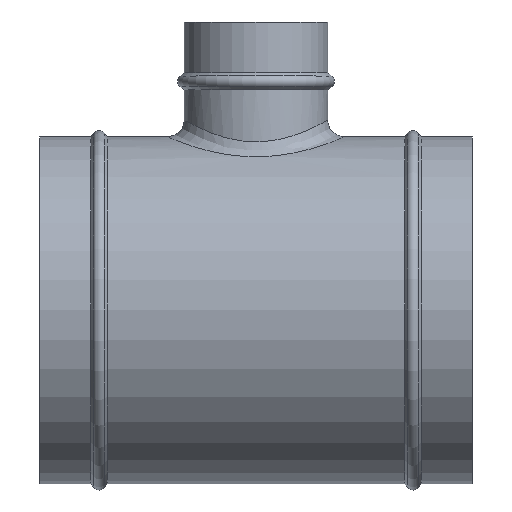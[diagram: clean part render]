
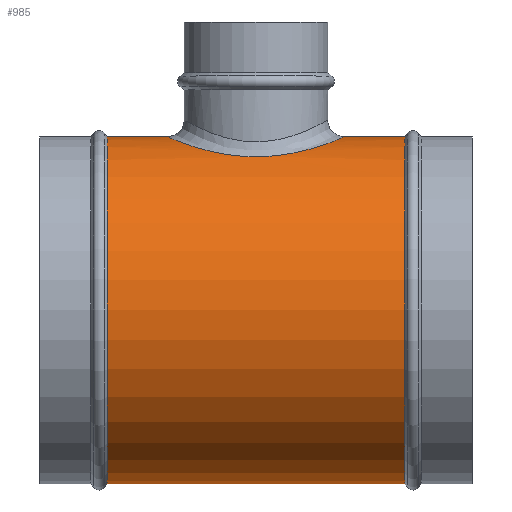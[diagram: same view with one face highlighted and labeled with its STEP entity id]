
A CAD part, top view. The second image highlights one B-rep face of the part: STEP entity #985.
In plain terms, the highlighted cylindrical face has radius 102.25 mm (diameter 204.5 mm), a partial arc.
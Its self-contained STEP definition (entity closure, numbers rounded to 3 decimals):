
#183=CARTESIAN_POINT('',(-52.25,102.25,0.));
#184=CARTESIAN_POINT('',(-52.25,102.25,1.335));
#185=CARTESIAN_POINT('',(-52.128,102.198,4.043));
#186=CARTESIAN_POINT('',(-51.533,101.947,8.24));
#187=CARTESIAN_POINT('',(-50.497,101.515,12.485));
#188=CARTESIAN_POINT('',(-49.004,100.904,16.716));
#189=CARTESIAN_POINT('',(-47.05,100.128,20.865));
#190=CARTESIAN_POINT('',(-44.629,99.2,24.9));
#191=CARTESIAN_POINT('',(-41.76,98.157,28.714));
#192=CARTESIAN_POINT('',(-38.927,97.185,31.834));
#193=CARTESIAN_POINT('',(-35.621,96.122,34.919));
#194=CARTESIAN_POINT('',(-31.575,94.932,38.036));
#195=CARTESIAN_POINT('',(-26.654,93.658,41.069));
#196=CARTESIAN_POINT('',(-20.708,92.38,43.861));
#197=CARTESIAN_POINT('',(-13.375,91.219,46.213));
#198=CARTESIAN_POINT('',(-4.993,90.498,47.595));
#199=CARTESIAN_POINT('',(3.671,90.444,47.696));
#200=CARTESIAN_POINT('',(12.15,91.072,46.5));
#201=CARTESIAN_POINT('',(19.745,92.2,44.238));
#202=CARTESIAN_POINT('',(25.896,93.479,41.475));
#203=CARTESIAN_POINT('',(30.987,94.769,38.44));
#204=CARTESIAN_POINT('',(35.166,95.981,35.305));
#205=CARTESIAN_POINT('',(38.598,97.076,32.167));
#206=CARTESIAN_POINT('',(41.425,98.04,29.11));
#207=CARTESIAN_POINT('',(44.305,99.08,25.374));
#208=CARTESIAN_POINT('',(46.779,100.022,21.365));
#209=CARTESIAN_POINT('',(48.785,100.816,17.24));
#210=CARTESIAN_POINT('',(50.357,101.457,12.959));
#211=CARTESIAN_POINT('',(51.471,101.921,8.585));
#212=CARTESIAN_POINT('',(52.117,102.194,4.212));
#213=CARTESIAN_POINT('',(52.25,102.25,1.392));
#214=CARTESIAN_POINT('',(52.25,102.25,0.));
#219=CARTESIAN_POINT('',(87.65,0.,0.));
#220=DIRECTION('',(1.,0.,0.));
#221=DIRECTION('',(0.,1.,0.));
#222=AXIS2_PLACEMENT_3D('',#219,#220,#221);
#227=CARTESIAN_POINT('',(-87.65,0.,0.));
#228=DIRECTION('',(1.,0.,0.));
#229=DIRECTION('',(0.,1.,0.));
#230=AXIS2_PLACEMENT_3D('',#227,#228,#229);
#301=CARTESIAN_POINT('',(52.25,102.25,0.));
#332=CARTESIAN_POINT('',(-52.25,102.25,0.));
#337=DIRECTION('',(-1.,0.,0.));
#338=VECTOR('',#337,35.4);
#339=CARTESIAN_POINT('',(-52.25,102.25,0.));
#340=LINE('',#339,#338);
#352=DIRECTION('',(-1.,0.,0.));
#353=VECTOR('',#352,175.3);
#354=CARTESIAN_POINT('',(87.65,-102.25,0.));
#355=LINE('',#354,#353);
#367=DIRECTION('',(-1.,0.,0.));
#368=VECTOR('',#367,35.4);
#369=CARTESIAN_POINT('',(87.65,102.25,0.));
#370=LINE('',#369,#368);
#818=CARTESIAN_POINT('',(87.65,102.25,0.));
#819=CARTESIAN_POINT('',(87.65,-102.25,0.));
#820=VERTEX_POINT('',#818);
#821=VERTEX_POINT('',#819);
#822=CARTESIAN_POINT('',(-87.65,102.25,0.));
#823=CARTESIAN_POINT('',(-87.65,-102.25,0.));
#824=VERTEX_POINT('',#822);
#825=VERTEX_POINT('',#823);
#858=VERTEX_POINT('',#301);
#859=VERTEX_POINT('',#332);
#966=CARTESIAN_POINT('',(-140.25,0.,0.));
#967=DIRECTION('',(1.,0.,0.));
#968=DIRECTION('',(0.,-1.,0.));
#969=AXIS2_PLACEMENT_3D('',#966,#967,#968);
#970=CYLINDRICAL_SURFACE('',#969,102.25);
#972=ORIENTED_EDGE('',*,*,#971,.T.);
#974=ORIENTED_EDGE('',*,*,#973,.F.);
#976=ORIENTED_EDGE('',*,*,#975,.T.);
#978=ORIENTED_EDGE('',*,*,#977,.T.);
#980=ORIENTED_EDGE('',*,*,#979,.F.);
#982=ORIENTED_EDGE('',*,*,#981,.F.);
#983=EDGE_LOOP('',(#972,#974,#976,#978,#980,#982));
#984=FACE_OUTER_BOUND('',#983,.F.);
#215=B_SPLINE_CURVE_WITH_KNOTS('',3,(#183,#184,#185,#186,#187,#188,#189,#190,
#191,#192,#193,#194,#195,#196,#197,#198,#199,#200,#201,#202,#203,#204,#205,#206,
#207,#208,#209,#210,#211,#212,#213,#214),.UNSPECIFIED.,.F.,.F.,(4,1,1,1,1,1,1,1,
1,1,1,1,1,1,1,1,1,1,1,1,1,1,1,1,1,1,1,1,1,4),(0.,0.034,
0.069,0.103,0.138,0.172,
0.207,0.241,0.276,0.31,
0.345,0.379,0.414,0.448,
0.483,0.517,0.552,0.586,
0.621,0.655,0.69,0.724,
0.759,0.793,0.828,0.862,
0.897,0.931,0.966,1.),.UNSPECIFIED.);
#223=CIRCLE('',#222,102.25);
#231=CIRCLE('',#230,102.25);
#971=EDGE_CURVE('',#859,#858,#215,.T.);
#973=EDGE_CURVE('',#820,#858,#370,.T.);
#975=EDGE_CURVE('',#820,#821,#223,.T.);
#977=EDGE_CURVE('',#821,#825,#355,.T.);
#979=EDGE_CURVE('',#824,#825,#231,.T.);
#981=EDGE_CURVE('',#859,#824,#340,.T.);
#985=ADVANCED_FACE('',(#984),#970,.T.);
